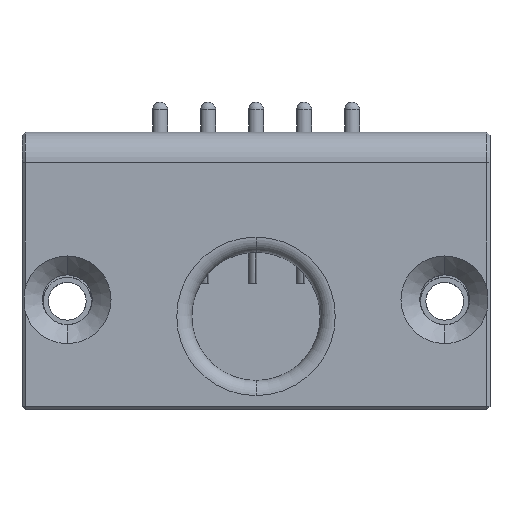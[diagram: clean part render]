
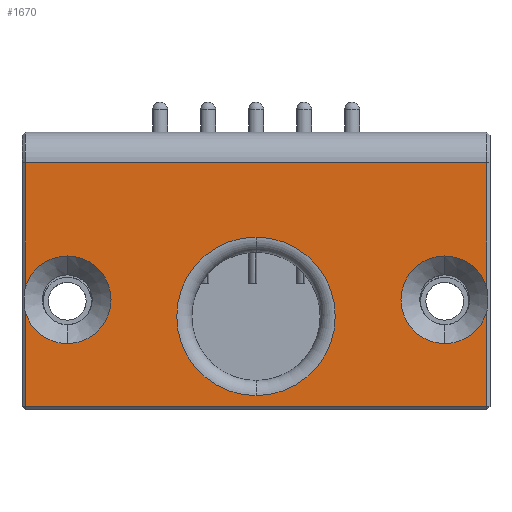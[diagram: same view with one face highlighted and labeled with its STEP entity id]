
A CAD part, front view. The second image highlights one B-rep face of the part: STEP entity #1670.
In plain terms, the highlighted planar face has unit normal (0, -1, 0).
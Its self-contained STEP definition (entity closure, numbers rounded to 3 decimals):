
#203 = VERTEX_POINT ( 'NONE', #2979 ) ;
#419 = VERTEX_POINT ( 'NONE', #4380 ) ;
#460 = DIRECTION ( 'NONE',  ( 0., 0., -1. ) ) ;
#492 = CARTESIAN_POINT ( 'NONE',  ( 15.3, -19.3, -7.4 ) ) ;
#551 = DIRECTION ( 'NONE',  ( 0., 0., 1. ) ) ;
#586 = ORIENTED_EDGE ( 'NONE', *, *, #8733, .T. ) ;
#848 = EDGE_CURVE ( 'NONE', #16475, #16306, #6895, .T. ) ;
#1213 = LINE ( 'NONE', #1905, #11186 ) ;
#1232 = CARTESIAN_POINT ( 'NONE',  ( 12.5, -19.3, -5.5 ) ) ;
#1280 = CIRCLE ( 'NONE', #13996, 2.9 ) ;
#1329 = DIRECTION ( 'NONE',  ( 1., 0., 0. ) ) ;
#1521 = AXIS2_PLACEMENT_3D ( 'NONE', #9418, #9437, #9457 ) ;
#1670 = ADVANCED_FACE ( 'NONE', ( #12761, #2496 ), #12970, .T. ) ;
#1756 = ORIENTED_EDGE ( 'NONE', *, *, #848, .T. ) ;
#1762 = CARTESIAN_POINT ( 'NONE',  ( 12.5, -19.3, -8.4 ) ) ;
#1905 = CARTESIAN_POINT ( 'NONE',  ( 0., -19.3, -15.5 ) ) ;
#1959 = CARTESIAN_POINT ( 'NONE',  ( -12.5, -19.3, -11.3 ) ) ;
#2022 = AXIS2_PLACEMENT_3D ( 'NONE', #14464, #14225, #14209 ) ;
#2054 = CARTESIAN_POINT ( 'NONE',  ( -12.5, -19.3, -8.4 ) ) ;
#2077 = DIRECTION ( 'NONE',  ( 0., 1., 0. ) ) ;
#2137 = DIRECTION ( 'NONE',  ( 0., 0., -1. ) ) ;
#2496 = FACE_OUTER_BOUND ( 'NONE', #5864, .T. ) ;
#2773 = ORIENTED_EDGE ( 'NONE', *, *, #11711, .T. ) ;
#2979 = CARTESIAN_POINT ( 'NONE',  ( -15.3, -19.3, -15.5 ) ) ;
#3131 = CARTESIAN_POINT ( 'NONE',  ( -12.5, -19.3, -5.5 ) ) ;
#3343 = CARTESIAN_POINT ( 'NONE',  ( -15.3, -19.3, -9.155 ) ) ;
#3372 = VECTOR ( 'NONE', #10515, 1000. ) ;
#4122 = CARTESIAN_POINT ( 'NONE',  ( -12.5, -19.3, -8.4 ) ) ;
#4294 = AXIS2_PLACEMENT_3D ( 'NONE', #2054, #2077, #2137 ) ;
#4380 = CARTESIAN_POINT ( 'NONE',  ( 15.3, -19.3, 0.7 ) ) ;
#4393 = CIRCLE ( 'NONE', #7743, 5.25 ) ;
#4560 = VERTEX_POINT ( 'NONE', #7398 ) ;
#4803 = ORIENTED_EDGE ( 'NONE', *, *, #9276, .T. ) ;
#5158 = EDGE_CURVE ( 'NONE', #16046, #15256, #10525, .T. ) ;
#5198 = LINE ( 'NONE', #5542, #11609 ) ;
#5412 = ORIENTED_EDGE ( 'NONE', *, *, #5158, .T. ) ;
#5440 = DIRECTION ( 'NONE',  ( 0., 0., -1. ) ) ;
#5542 = CARTESIAN_POINT ( 'NONE',  ( 15.3, -19.3, -7.4 ) ) ;
#5633 = AXIS2_PLACEMENT_3D ( 'NONE', #14115, #14171, #14186 ) ;
#5707 = CIRCLE ( 'NONE', #16230, 2.9 ) ;
#5864 = EDGE_LOOP ( 'NONE', ( #14826, #2773, #8037, #10224, #7442, #1756, #4803, #5412, #10793, #12825, #586, #6874 ) ) ;
#5999 = EDGE_CURVE ( 'NONE', #13311, #14019, #1280, .T. ) ;
#6304 = DIRECTION ( 'NONE',  ( 0., 0., -1. ) ) ;
#6582 = EDGE_CURVE ( 'NONE', #4560, #419, #5198, .T. ) ;
#6843 = EDGE_CURVE ( 'NONE', #15343, #203, #12950, .T. ) ;
#6874 = ORIENTED_EDGE ( 'NONE', *, *, #8632, .T. ) ;
#6895 = LINE ( 'NONE', #10471, #3372 ) ;
#7398 = CARTESIAN_POINT ( 'NONE',  ( 15.3, -19.3, -7.645 ) ) ;
#7442 = ORIENTED_EDGE ( 'NONE', *, *, #11043, .F. ) ;
#7471 = CARTESIAN_POINT ( 'NONE',  ( 12.5, -19.3, -11.3 ) ) ;
#7510 = CIRCLE ( 'NONE', #5633, 2.9 ) ;
#7722 = CIRCLE ( 'NONE', #1521, 5.25 ) ;
#7730 = CARTESIAN_POINT ( 'NONE',  ( 0., -19.3, -4.25 ) ) ;
#7743 = AXIS2_PLACEMENT_3D ( 'NONE', #11417, #11437, #11469 ) ;
#7788 = CARTESIAN_POINT ( 'NONE',  ( -15.3, -19.3, 0.7 ) ) ;
#8037 = ORIENTED_EDGE ( 'NONE', *, *, #13718, .T. ) ;
#8138 = EDGE_CURVE ( 'NONE', #15256, #15343, #10820, .T. ) ;
#8356 = CARTESIAN_POINT ( 'NONE',  ( 15.3, -19.3, -9.155 ) ) ;
#8524 = ORIENTED_EDGE ( 'NONE', *, *, #15705, .T. ) ;
#8632 = EDGE_CURVE ( 'NONE', #16455, #13311, #9458, .T. ) ;
#8733 = EDGE_CURVE ( 'NONE', #203, #16455, #1213, .T. ) ;
#8765 = CARTESIAN_POINT ( 'NONE',  ( -15.3, -19.3, -7.645 ) ) ;
#8994 = CARTESIAN_POINT ( 'NONE',  ( -15.3, -19.3, -7.4 ) ) ;
#9023 = CARTESIAN_POINT ( 'NONE',  ( 12.5, -19.3, -8.4 ) ) ;
#9033 = CARTESIAN_POINT ( 'NONE',  ( 15.3, -19.3, -15.5 ) ) ;
#9132 = DIRECTION ( 'NONE',  ( 0., 1., 0. ) ) ;
#9187 = DIRECTION ( 'NONE',  ( 0., 0., -1. ) ) ;
#9276 = EDGE_CURVE ( 'NONE', #16306, #16046, #15625, .T. ) ;
#9298 = VECTOR ( 'NONE', #6304, 1000. ) ;
#9418 = CARTESIAN_POINT ( 'NONE',  ( 0., -19.3, -9.5 ) ) ;
#9437 = DIRECTION ( 'NONE',  ( 0., 1., 0. ) ) ;
#9457 = DIRECTION ( 'NONE',  ( 0., 0., -1. ) ) ;
#9458 = LINE ( 'NONE', #492, #15209 ) ;
#9602 = VECTOR ( 'NONE', #15108, 1000. ) ;
#9643 = DIRECTION ( 'NONE',  ( 0., 1., 0. ) ) ;
#9854 = AXIS2_PLACEMENT_3D ( 'NONE', #12989, #12939, #12934 ) ;
#10224 = ORIENTED_EDGE ( 'NONE', *, *, #6582, .T. ) ;
#10435 = CARTESIAN_POINT ( 'NONE',  ( 0., -19.3, -14.75 ) ) ;
#10471 = CARTESIAN_POINT ( 'NONE',  ( -15.3, -19.3, -7.4 ) ) ;
#10515 = DIRECTION ( 'NONE',  ( 0., 0., -1. ) ) ;
#10525 = CIRCLE ( 'NONE', #10848, 2.9 ) ;
#10793 = ORIENTED_EDGE ( 'NONE', *, *, #8138, .T. ) ;
#10820 = CIRCLE ( 'NONE', #2022, 2.9 ) ;
#10848 = AXIS2_PLACEMENT_3D ( 'NONE', #4122, #13029, #5440 ) ;
#11043 = EDGE_CURVE ( 'NONE', #16475, #419, #12850, .T. ) ;
#11186 = VECTOR ( 'NONE', #1329, 1000. ) ;
#11337 = ORIENTED_EDGE ( 'NONE', *, *, #13388, .T. ) ;
#11417 = CARTESIAN_POINT ( 'NONE',  ( 0., -19.3, -9.5 ) ) ;
#11437 = DIRECTION ( 'NONE',  ( 0., 1., 0. ) ) ;
#11469 = DIRECTION ( 'NONE',  ( 0., 0., -1. ) ) ;
#11609 = VECTOR ( 'NONE', #13127, 1000. ) ;
#11711 = EDGE_CURVE ( 'NONE', #14019, #14229, #5707, .T. ) ;
#12761 = FACE_BOUND ( 'NONE', #14685, .T. ) ;
#12825 = ORIENTED_EDGE ( 'NONE', *, *, #6843, .T. ) ;
#12850 = LINE ( 'NONE', #15264, #9602 ) ;
#12934 = DIRECTION ( 'NONE',  ( 0., 0., -1. ) ) ;
#12939 = DIRECTION ( 'NONE',  ( 0., -1., 0. ) ) ;
#12950 = LINE ( 'NONE', #8994, #9298 ) ;
#12970 = PLANE ( 'NONE',  #9854 ) ;
#12989 = CARTESIAN_POINT ( 'NONE',  ( -15.3, -19.3, 0.7 ) ) ;
#13029 = DIRECTION ( 'NONE',  ( 0., 1., 0. ) ) ;
#13127 = DIRECTION ( 'NONE',  ( 0., 0., 1. ) ) ;
#13311 = VERTEX_POINT ( 'NONE', #8356 ) ;
#13388 = EDGE_CURVE ( 'NONE', #16448, #15669, #7722, .T. ) ;
#13718 = EDGE_CURVE ( 'NONE', #14229, #4560, #7510, .T. ) ;
#13996 = AXIS2_PLACEMENT_3D ( 'NONE', #1762, #9643, #460 ) ;
#14019 = VERTEX_POINT ( 'NONE', #7471 ) ;
#14115 = CARTESIAN_POINT ( 'NONE',  ( 12.5, -19.3, -8.4 ) ) ;
#14171 = DIRECTION ( 'NONE',  ( 0., 1., 0. ) ) ;
#14186 = DIRECTION ( 'NONE',  ( 0., 0., -1. ) ) ;
#14209 = DIRECTION ( 'NONE',  ( 0., 0., -1. ) ) ;
#14225 = DIRECTION ( 'NONE',  ( 0., 1., 0. ) ) ;
#14229 = VERTEX_POINT ( 'NONE', #1232 ) ;
#14464 = CARTESIAN_POINT ( 'NONE',  ( -12.5, -19.3, -8.4 ) ) ;
#14685 = EDGE_LOOP ( 'NONE', ( #8524, #11337 ) ) ;
#14826 = ORIENTED_EDGE ( 'NONE', *, *, #5999, .T. ) ;
#15108 = DIRECTION ( 'NONE',  ( 1., 0., 0. ) ) ;
#15209 = VECTOR ( 'NONE', #551, 1000. ) ;
#15256 = VERTEX_POINT ( 'NONE', #1959 ) ;
#15264 = CARTESIAN_POINT ( 'NONE',  ( 0., -19.3, 0.7 ) ) ;
#15343 = VERTEX_POINT ( 'NONE', #3343 ) ;
#15625 = CIRCLE ( 'NONE', #4294, 2.9 ) ;
#15669 = VERTEX_POINT ( 'NONE', #10435 ) ;
#15705 = EDGE_CURVE ( 'NONE', #15669, #16448, #4393, .T. ) ;
#16046 = VERTEX_POINT ( 'NONE', #3131 ) ;
#16230 = AXIS2_PLACEMENT_3D ( 'NONE', #9023, #9132, #9187 ) ;
#16306 = VERTEX_POINT ( 'NONE', #8765 ) ;
#16448 = VERTEX_POINT ( 'NONE', #7730 ) ;
#16455 = VERTEX_POINT ( 'NONE', #9033 ) ;
#16475 = VERTEX_POINT ( 'NONE', #7788 ) ;
